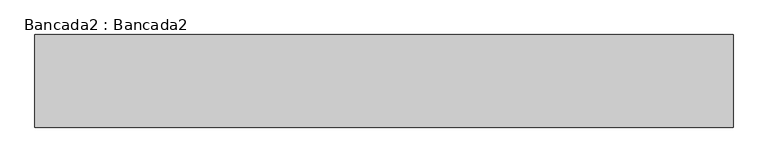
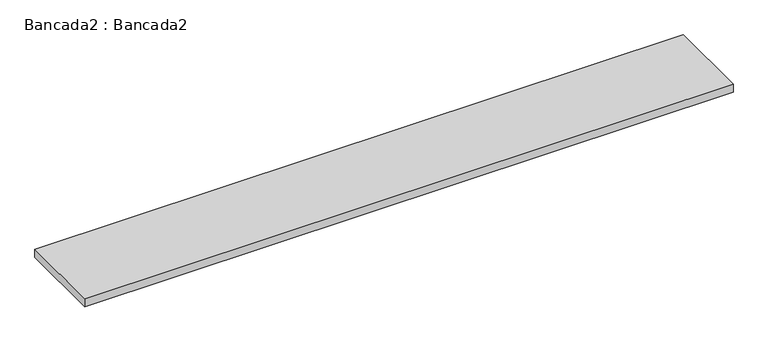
"""IFC4 building model written with IfcOpenShell, lengths in millimetres: furniture geometry, Bancada2 : Bancada2."""

from ifc_helpers import new_model, si_unit, frame, origin, place, context, project, spatial, polyline, outline, extrude, source, transform, mapped, element, save


def bancada2_bancada2_bb262f56(model_context):
    return source(origin(), model_context, "Body", "SweptSolid", [
        extrude(outline(polyline([(1277.6165906, -1042.0637549), (1277.6165906, -1642.0637549), (-3242.3834094, -1642.0637549), (-3242.3834094, -1042.0637549), (1277.6165906, -1042.0637549)])), frame((0.0, 0.0, 840.0), z_axis=(0.0, 0.0, 1.0), x_axis=(1.0, 0.0, 0.0)), (0.0, 0.0, 1.0), 60.0),
    ])


if __name__ == "__main__":
    model = new_model("IFC4")
    model_context = context("Model", 3, world=origin())
    ifc_project = project(units=[si_unit("LENGTHUNIT", "METRE", prefix="MILLI")], contexts=[model_context])
    site = spatial("IfcSite", under=ifc_project)
    building = spatial("IfcBuilding", under=site)
    placement = place(None, origin())
    bancada2_bancada2_shape = bancada2_bancada2_bb262f56(model_context)
    element("IfcFurniture", 1, ObjectType="Bancada2 : Bancada2", at=placement, inside=building, context=model_context, shape_type="MappedRepresentation", body=[
        mapped(bancada2_bancada2_shape, transform((0.0, 0.0, 0.0), x_axis=(1.0, 0.0, 0.0), y_axis=(0.0, 1.0, 0.0), z_axis=(0.0, 0.0, 1.0))),
    ])
    save(model, "model.ifc")
